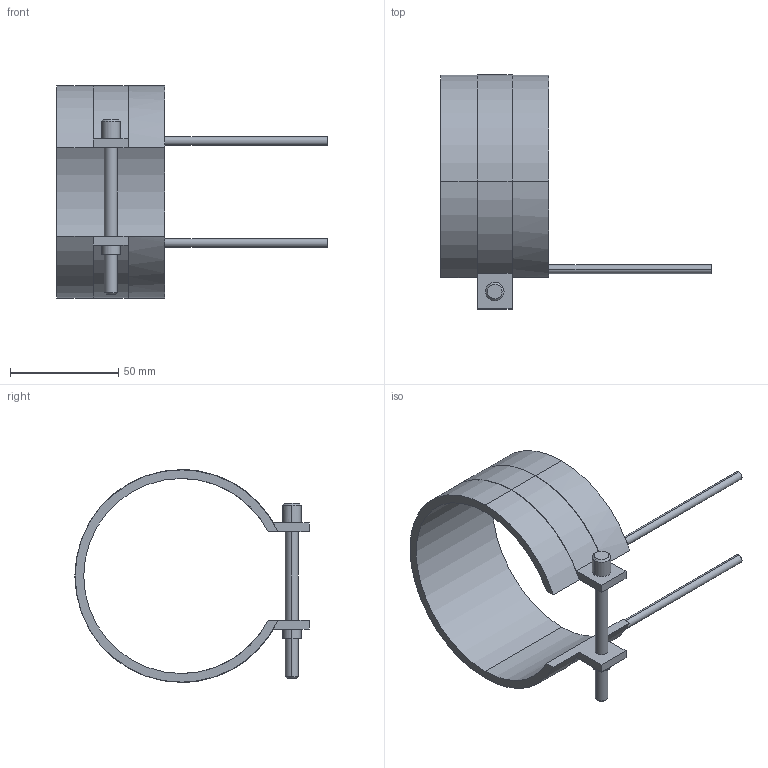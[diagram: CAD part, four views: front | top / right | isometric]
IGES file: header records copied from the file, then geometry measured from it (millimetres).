
Start section: START RECORD GO HERE.
Global section: file name: 14090050.igs; native system: DASSAULT SYSTEMES CATIA V5 R20 - www.3ds.com; preprocessor: CATIA Version 5 Release 20 ; author: Utente; organization: NB04-ASUS; date: 20210406.180958; units: millimetre
Bounding box: 125 x 108.1 x 98.2 mm (x, y, z)
Surface area: 32325.8 mm2 (no closed solid volume)
Topology: 0 solids, 0 shells, 45 faces, 232 edges, 232 vertices
Faces by surface type: revolution 28, plane 17
